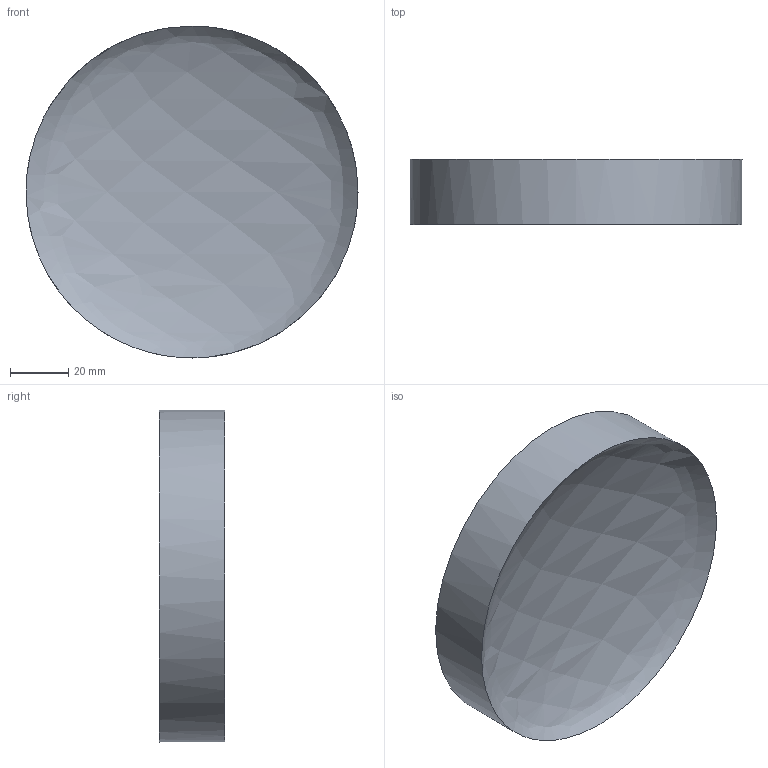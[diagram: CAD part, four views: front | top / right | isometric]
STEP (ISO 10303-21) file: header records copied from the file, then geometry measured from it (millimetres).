
FILE_DESCRIPTION(('Open CASCADE Model'),'2;1');
FILE_NAME('Open CASCADE Shape Model','2026-10-18T12:27:28',('Author'),( 'Open CASCADE'),'Open CASCADE STEP processor 8.0','Open CASCADE 8.0' ,'Unknown');
FILE_SCHEMA(('AUTOMOTIVE_DESIGN { 1 0 10303 214 1 1 1 1 }'));
Length unit declared in the file: millimetre
Products named in the file (1): Open CASCADE STEP translator 8.0 3
Bounding box: 114 x 22.37 x 114 mm (x, y, z)
Volume: 148650.2 mm3; surface area: 29229.1 mm2
Topology: 1 solids, 1 shells, 3 faces, 4 edges, 3 vertices
Faces by surface type: cylinder 1, bspline 1, plane 1
Full cylindrical faces by diameter (mm): 114 x1
Entity records: 1215 total; most frequent: CARTESIAN_POINT 1121, DIRECTION 13, ORIENTED_EDGE 8, PCURVE 8, DEFINITIONAL_REPRESENTATION 8, B_SPLINE_CURVE_WITH_KNOTS 6, AXIS2_PLACEMENT_3D 4, EDGE_CURVE 4
